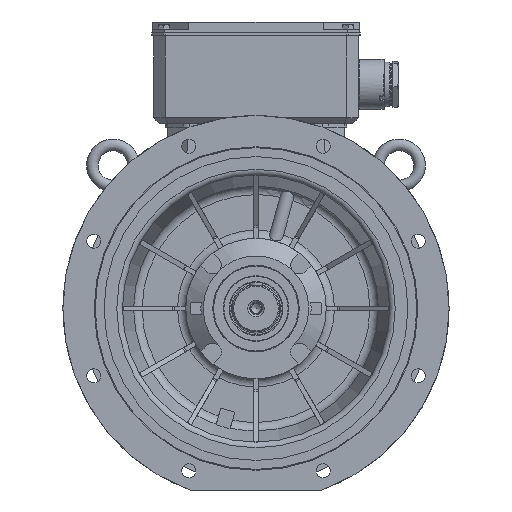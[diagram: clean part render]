
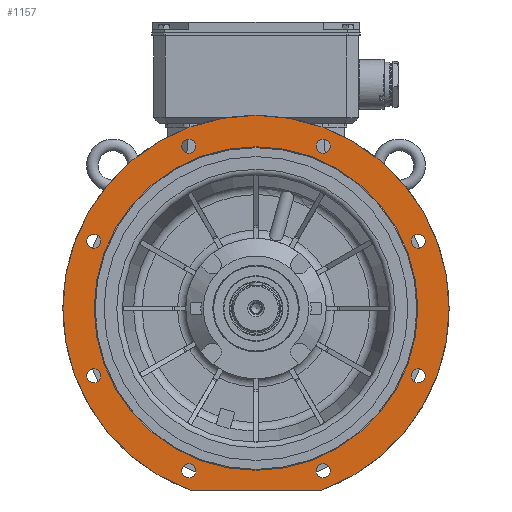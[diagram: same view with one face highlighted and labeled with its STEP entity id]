
A CAD part, front view. The second image highlights one B-rep face of the part: STEP entity #1157.
In plain terms, the highlighted planar face has unit normal (0, -1, 0).
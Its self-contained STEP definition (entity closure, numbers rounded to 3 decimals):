
#1157 = ADVANCED_FACE( '', ( #3682, #3683, #3684, #3685, #3686, #3687, #3688, #3689, #3690, #3691 ), #3692, .F. );
#3682 = FACE_BOUND( '', #10754, .T. );
#3683 = FACE_BOUND( '', #10755, .T. );
#3684 = FACE_BOUND( '', #10756, .T. );
#3685 = FACE_BOUND( '', #10757, .T. );
#3686 = FACE_BOUND( '', #10758, .T. );
#3687 = FACE_BOUND( '', #10759, .T. );
#3688 = FACE_BOUND( '', #10760, .T. );
#3689 = FACE_BOUND( '', #10761, .T. );
#3690 = FACE_BOUND( '', #10762, .T. );
#3691 = FACE_OUTER_BOUND( '', #10763, .T. );
#3692 = PLANE( '', #10764 );
#10754 = EDGE_LOOP( '', ( #19340 ) );
#10755 = EDGE_LOOP( '', ( #19341 ) );
#10756 = EDGE_LOOP( '', ( #19342 ) );
#10757 = EDGE_LOOP( '', ( #19343 ) );
#10758 = EDGE_LOOP( '', ( #19344 ) );
#10759 = EDGE_LOOP( '', ( #19345 ) );
#10760 = EDGE_LOOP( '', ( #19346 ) );
#10761 = EDGE_LOOP( '', ( #19347 ) );
#10762 = EDGE_LOOP( '', ( #19348 ) );
#10763 = EDGE_LOOP( '', ( #19349, #19350, #19351, #19352 ) );
#10764 = AXIS2_PLACEMENT_3D( '', #19353, #19354, #19355 );
#19340 = ORIENTED_EDGE( '', *, *, #25862, .F. );
#19341 = ORIENTED_EDGE( '', *, *, #25863, .F. );
#19342 = ORIENTED_EDGE( '', *, *, #25864, .F. );
#19343 = ORIENTED_EDGE( '', *, *, #25865, .F. );
#19344 = ORIENTED_EDGE( '', *, *, #25866, .F. );
#19345 = ORIENTED_EDGE( '', *, *, #25867, .F. );
#19346 = ORIENTED_EDGE( '', *, *, #25868, .F. );
#19347 = ORIENTED_EDGE( '', *, *, #25869, .F. );
#19348 = ORIENTED_EDGE( '', *, *, #25861, .F. );
#19349 = ORIENTED_EDGE( '', *, *, #24601, .T. );
#19350 = ORIENTED_EDGE( '', *, *, #25870, .F. );
#19351 = ORIENTED_EDGE( '', *, *, #24596, .T. );
#19352 = ORIENTED_EDGE( '', *, *, #24599, .F. );
#19353 = CARTESIAN_POINT( '', ( 0., -99.997, 276.4 ) );
#19354 = DIRECTION( '', ( 0., 1., 0. ) );
#19355 = DIRECTION( '', ( 0., 0., 1. ) );
#24596 = EDGE_CURVE( '', #29345, #29346, #29347, .F. );
#24599 = EDGE_CURVE( '', #29350, #29346, #29351, .T. );
#24601 = EDGE_CURVE( '', #29350, #29353, #29354, .F. );
#25861 = EDGE_CURVE( '', #31410, #31410, #31411, .T. );
#25862 = EDGE_CURVE( '', #31412, #31412, #31413, .T. );
#25863 = EDGE_CURVE( '', #31414, #31414, #31415, .T. );
#25864 = EDGE_CURVE( '', #31416, #31416, #31417, .T. );
#25865 = EDGE_CURVE( '', #31418, #31418, #31419, .T. );
#25866 = EDGE_CURVE( '', #31420, #31420, #31421, .T. );
#25867 = EDGE_CURVE( '', #31422, #31422, #31423, .T. );
#25868 = EDGE_CURVE( '', #31424, #31424, #31425, .T. );
#25869 = EDGE_CURVE( '', #31426, #31426, #31427, .T. );
#25870 = EDGE_CURVE( '', #29345, #29353, #31428, .T. );
#29345 = VERTEX_POINT( '', #39222 );
#29346 = VERTEX_POINT( '', #39223 );
#29347 = CIRCLE( '', #39224, 3. );
#29350 = VERTEX_POINT( '', #39229 );
#29351 = CIRCLE( '', #39230, 330. );
#29353 = VERTEX_POINT( '', #39233 );
#29354 = CIRCLE( '', #39234, 3. );
#31410 = VERTEX_POINT( '', #45511 );
#31411 = CIRCLE( '', #45512, 276.4 );
#31412 = VERTEX_POINT( '', #45513 );
#31413 = CIRCLE( '', #45514, 12. );
#31414 = VERTEX_POINT( '', #45515 );
#31415 = CIRCLE( '', #45516, 12. );
#31416 = VERTEX_POINT( '', #45517 );
#31417 = CIRCLE( '', #45518, 12. );
#31418 = VERTEX_POINT( '', #45519 );
#31419 = CIRCLE( '', #45520, 12. );
#31420 = VERTEX_POINT( '', #45521 );
#31421 = CIRCLE( '', #45522, 12. );
#31422 = VERTEX_POINT( '', #45523 );
#31423 = CIRCLE( '', #45524, 12. );
#31424 = VERTEX_POINT( '', #45525 );
#31425 = CIRCLE( '', #45526, 12. );
#31426 = VERTEX_POINT( '', #45527 );
#31427 = CIRCLE( '', #45528, 12. );
#31428 = LINE( '', #45529, #45530 );
#39222 = CARTESIAN_POINT( '', ( 112.606, -99.997, -310. ) );
#39223 = CARTESIAN_POINT( '', ( 113.639, -99.997, -309.817 ) );
#39224 = AXIS2_PLACEMENT_3D( '', #51441, #51442, #51443 );
#39229 = CARTESIAN_POINT( '', ( -113.639, -99.997, -309.817 ) );
#39230 = AXIS2_PLACEMENT_3D( '', #51446, #51447, #51448 );
#39233 = CARTESIAN_POINT( '', ( -112.606, -99.997, -310. ) );
#39234 = AXIS2_PLACEMENT_3D( '', #51450, #51451, #51452 );
#45511 = CARTESIAN_POINT( '', ( 0., -99.997, -276.4 ) );
#45512 = AXIS2_PLACEMENT_3D( '', #53447, #53448, #53449 );
#45513 = CARTESIAN_POINT( '', ( -265.164, -99.997, 114.805 ) );
#45514 = AXIS2_PLACEMENT_3D( '', #53450, #53451, #53452 );
#45515 = CARTESIAN_POINT( '', ( -265.164, -99.997, -114.805 ) );
#45516 = AXIS2_PLACEMENT_3D( '', #53453, #53454, #53455 );
#45517 = CARTESIAN_POINT( '', ( -102.805, -99.997, -277.164 ) );
#45518 = AXIS2_PLACEMENT_3D( '', #53456, #53457, #53458 );
#45519 = CARTESIAN_POINT( '', ( 126.805, -99.997, -277.164 ) );
#45520 = AXIS2_PLACEMENT_3D( '', #53459, #53460, #53461 );
#45521 = CARTESIAN_POINT( '', ( 289.164, -99.997, -114.805 ) );
#45522 = AXIS2_PLACEMENT_3D( '', #53462, #53463, #53464 );
#45523 = CARTESIAN_POINT( '', ( 289.164, -99.997, 114.805 ) );
#45524 = AXIS2_PLACEMENT_3D( '', #53465, #53466, #53467 );
#45525 = CARTESIAN_POINT( '', ( 126.805, -99.997, 277.164 ) );
#45526 = AXIS2_PLACEMENT_3D( '', #53468, #53469, #53470 );
#45527 = CARTESIAN_POINT( '', ( -102.805, -99.997, 277.164 ) );
#45528 = AXIS2_PLACEMENT_3D( '', #53471, #53472, #53473 );
#45529 = CARTESIAN_POINT( '', ( -113.137, -99.997, -310. ) );
#45530 = VECTOR( '', #53474, 1000. );
#51441 = CARTESIAN_POINT( '', ( 112.606, -99.997, -307. ) );
#51442 = DIRECTION( '', ( 0., 1., 0. ) );
#51443 = DIRECTION( '', ( 0., 0., 1. ) );
#51446 = CARTESIAN_POINT( '', ( 0., -99.997, 0. ) );
#51447 = DIRECTION( '', ( 0., 1., 0. ) );
#51448 = DIRECTION( '', ( 0., 0., 1. ) );
#51450 = CARTESIAN_POINT( '', ( -112.606, -99.997, -307. ) );
#51451 = DIRECTION( '', ( 0., 1., 0. ) );
#51452 = DIRECTION( '', ( 0., 0., 1. ) );
#53447 = CARTESIAN_POINT( '', ( 0., -99.997, 0. ) );
#53448 = DIRECTION( '', ( 0., -1., 0. ) );
#53449 = DIRECTION( '', ( 0., 0., -1. ) );
#53450 = CARTESIAN_POINT( '', ( -277.164, -99.997, 114.805 ) );
#53451 = DIRECTION( '', ( 0., -1., 0. ) );
#53452 = DIRECTION( '', ( 1., 0., 0. ) );
#53453 = CARTESIAN_POINT( '', ( -277.164, -99.997, -114.805 ) );
#53454 = DIRECTION( '', ( 0., -1., 0. ) );
#53455 = DIRECTION( '', ( 1., 0., 0. ) );
#53456 = CARTESIAN_POINT( '', ( -114.805, -99.997, -277.164 ) );
#53457 = DIRECTION( '', ( 0., -1., 0. ) );
#53458 = DIRECTION( '', ( 1., 0., 0. ) );
#53459 = CARTESIAN_POINT( '', ( 114.805, -99.997, -277.164 ) );
#53460 = DIRECTION( '', ( 0., -1., 0. ) );
#53461 = DIRECTION( '', ( 1., 0., 0. ) );
#53462 = CARTESIAN_POINT( '', ( 277.164, -99.997, -114.805 ) );
#53463 = DIRECTION( '', ( 0., -1., 0. ) );
#53464 = DIRECTION( '', ( 1., 0., 0. ) );
#53465 = CARTESIAN_POINT( '', ( 277.164, -99.997, 114.805 ) );
#53466 = DIRECTION( '', ( 0., -1., 0. ) );
#53467 = DIRECTION( '', ( 1., 0., 0. ) );
#53468 = CARTESIAN_POINT( '', ( 114.805, -99.997, 277.164 ) );
#53469 = DIRECTION( '', ( 0., -1., 0. ) );
#53470 = DIRECTION( '', ( 1., 0., 0. ) );
#53471 = CARTESIAN_POINT( '', ( -114.805, -99.997, 277.164 ) );
#53472 = DIRECTION( '', ( 0., -1., 0. ) );
#53473 = DIRECTION( '', ( 1., 0., 0. ) );
#53474 = DIRECTION( '', ( -1., 0., 0. ) );
